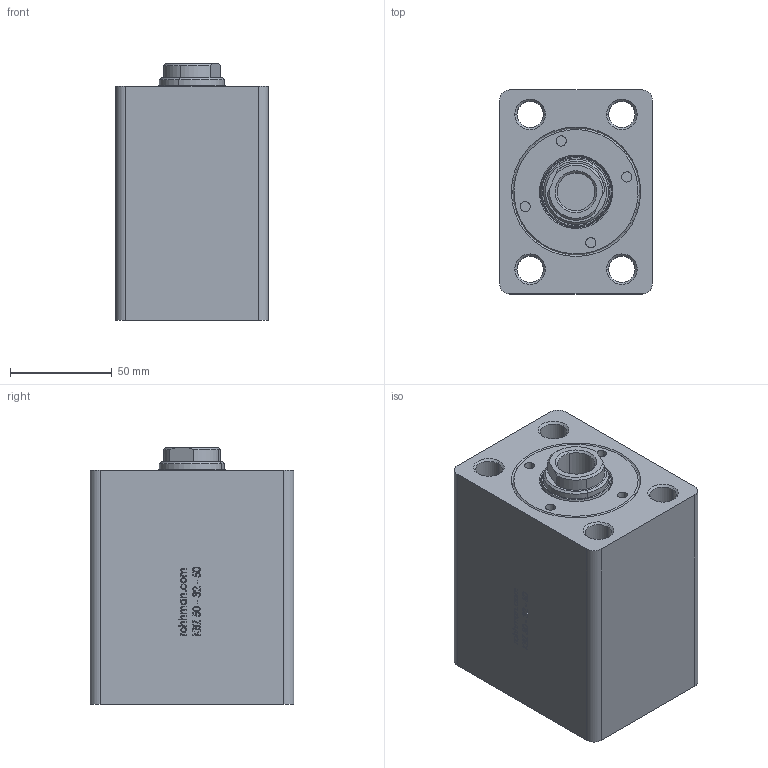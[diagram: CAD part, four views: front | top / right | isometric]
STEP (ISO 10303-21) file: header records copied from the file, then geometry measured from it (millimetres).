
FILE_DESCRIPTION (( 'STEP AP214' ), '1' );
FILE_NAME ('KBZ_02_50_32_50.STEP', '2023-05-19T19:20:09', ( '' ), ( '' ), 'SwSTEP 2.0', 'SolidWorks 2021', '' );
FILE_SCHEMA (( 'AUTOMOTIVE_DESIGN' ));
Length unit declared in the file: millimetre
Products named in the file (9): KBZ_02_50_32_50; 50-32-25-GOVDE_WEB; KBZ_02_50-32_ON_KAPAK; 32_36_PAP_32_10; K06-32X40_2X3_8X5; KBZ_02_50_32_ON_KAPAK; K22-32X42X7(K22_32); 32_25_M尳_WEB; KO-50X2_5
Assembly tree (8 placements, depth 3):
  KBZ_02_50_32_50
    50-32-25-GOVDE_WEB
    32_25_M尳_WEB
    KBZ_02_50_32_ON_KAPAK
      KBZ_02_50-32_ON_KAPAK
      K06-32X40_2X3_8X5
      K22-32X42X7(K22_32)
      32_36_PAP_32_10
      KO-50X2_5
Bounding box: 75 x 100 x 126 mm (x, y, z)
Volume: 685606.5 mm3; surface area: 120014.5 mm2
Topology: 7 solids, 7 shells, 561 faces, 1348 edges, 858 vertices
Faces by surface type: plane 196, bspline 173, cone 95, cylinder 89, torus 8
Entity records: 24943 total; most frequent: CARTESIAN_POINT 12405, ORIENTED_EDGE 2696, DIRECTION 2078, EDGE_CURVE 1348, VERTEX_POINT 858, VECTOR 698, LINE 698, AXIS2_PLACEMENT_3D 690
